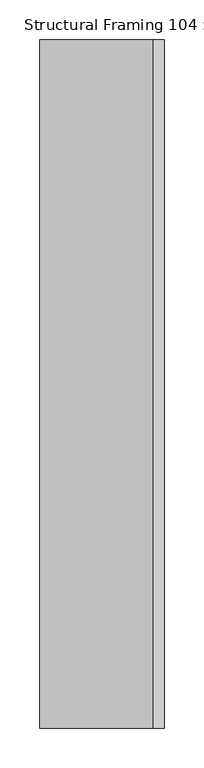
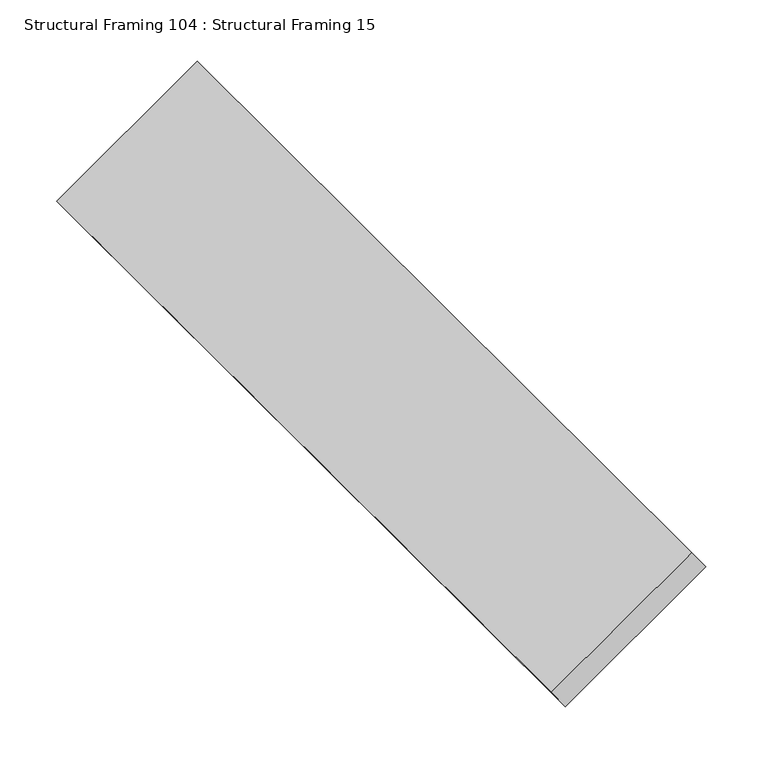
"""IFC4 building model written with IfcOpenShell, lengths in millimetres: beam geometry, Structural Framing 104 : Structural Framing 15."""

import ifcopenshell
import ifcopenshell.guid

model = None  # the IFC model being written
_history = None  # IfcOwnerHistory: only IFC2X3 demands one
_inside = {}  # id of a spatial element -> (the spatial element, [elements in it])
_under = {}  # id of a project, library or spatial element -> (it, [spatial elements below it])
_declared = {}  # id of a project -> (the project, [libraries it declares])
_typed = {}  # id of a type object -> (the type object, [elements of that type])
_made_of = {}  # id of a material, layer set ... -> (it, [elements and type objects made of it])


def new_model(schema):
    """Start an empty IFC model of exactly this schema.

    Asked for "IFC4X3", IfcOpenShell would pick the latest addendum, in which some entities
    have other attributes; the version numbers below select the first issue.
    IFC2X3 requires an IfcOwnerHistory on every rooted entity: one is made here for all.
    """
    global model, _history
    if schema == "IFC4X3":
        model = ifcopenshell.file(schema_version=(4, 3, 0, 0))
    else:
        model = ifcopenshell.file(schema=schema)
    _inside.clear()
    _under.clear()
    _declared.clear()
    _typed.clear()
    _made_of.clear()
    _history = None
    if model.schema == "IFC2X3":
        org = make("IfcOrganization", Name="unknown")
        user = make(
            "IfcPersonAndOrganization",
            ThePerson=make("IfcPerson", FamilyName="unknown"),
            TheOrganization=org,
        )
        app = make(
            "IfcApplication",
            ApplicationDeveloper=org,
            Version="unknown",
            ApplicationFullName="unknown",
            ApplicationIdentifier="unknown",
        )
        _history = make(
            "IfcOwnerHistory",
            OwningUser=user,
            OwningApplication=app,
            ChangeAction="ADDED",
            CreationDate=0,
        )
    return model


def make(cls, **values):
    """One entity of the class cls with the attributes given. An attribute that is None is left unset."""
    return model.create_entity(
        cls, **{name: value for name, value in values.items() if value is not None}
    )


def rooted(cls, **values):
    """An entity with a GlobalId (a new one), such as an element, a storey or a relation."""
    return make(cls, GlobalId=ifcopenshell.guid.new(), OwnerHistory=_history, **values)


def si_unit(unit_type, name, prefix=None):
    """IfcSIUnit, for example si_unit("LENGTHUNIT", "METRE", prefix="MILLI")."""
    return make("IfcSIUnit", UnitType=unit_type, Prefix=prefix, Name=name)


def assignment(units):
    """IfcUnitAssignment: the units of a project."""
    return None if units is None else make("IfcUnitAssignment", Units=units)


def point(xyz):
    """IfcCartesianPoint."""
    return None if xyz is None else make("IfcCartesianPoint", Coordinates=xyz)


def direction(xyz):
    """IfcDirection."""
    return None if xyz is None else make("IfcDirection", DirectionRatios=xyz)


def frame(location, z_axis=None, x_axis=None):
    """IfcAxis2Placement3D, a coordinate frame: its origin and axes. An axis left out is left unset."""
    return make(
        "IfcAxis2Placement3D",
        Location=point(location),
        Axis=direction(z_axis),
        RefDirection=direction(x_axis),
    )


def origin():
    """The frame at (0, 0, 0) with its axes left unset."""
    return frame((0.0, 0.0, 0.0))


def place(relative_to, where):
    """IfcLocalPlacement: puts the frame where relative to a parent placement (None: the world)."""
    return make(
        "IfcLocalPlacement", PlacementRelTo=relative_to, RelativePlacement=where
    )


def context(
    kind, dimensions, precision=None, world=None, true_north=None, identifier=None
):
    """IfcGeometricRepresentationContext, for example the 3D "Model" context."""
    return make(
        "IfcGeometricRepresentationContext",
        ContextIdentifier=identifier,
        ContextType=kind,
        CoordinateSpaceDimension=dimensions,
        Precision=precision,
        WorldCoordinateSystem=world,
        TrueNorth=true_north,
    )


def project(units=None, contexts=None):
    """IfcProject with its units and contexts."""
    return rooted(
        "IfcProject",
        Name="project",
        RepresentationContexts=contexts,
        UnitsInContext=assignment(units),
    )


def spatial(cls, under=None, at=None, **own):
    """A site, building, storey or space (cls), placed at a placement, below another one or the project."""
    s = rooted(cls, ObjectPlacement=at, **own)
    if under is not None:
        _under.setdefault(under.id(), (under, []))[1].append(s)
    return s


def polyline(points):
    """IfcPolyline through the points."""
    return make("IfcPolyline", Points=[point(p) for p in points])


def outline(outer, holes=None, kind="AREA"):
    """IfcArbitraryClosedProfileDef: a profile drawn as a closed curve; with holes, ...WithVoids."""
    if holes is None:
        return make("IfcArbitraryClosedProfileDef", ProfileType=kind, OuterCurve=outer)
    return make(
        "IfcArbitraryProfileDefWithVoids",
        ProfileType=kind,
        OuterCurve=outer,
        InnerCurves=holes,
    )


def extrude(swept, where, along, depth):
    """IfcExtrudedAreaSolid: the profile swept, set in the frame where, extruded along a direction by depth."""
    return make(
        "IfcExtrudedAreaSolid",
        SweptArea=swept,
        Position=where,
        ExtrudedDirection=direction(along),
        Depth=depth,
    )


def shape(context_of_items, identifier, shape_type, items):
    """IfcShapeRepresentation: the items that make up one representation, for example the "Body"."""
    return make(
        "IfcShapeRepresentation",
        ContextOfItems=context_of_items,
        RepresentationIdentifier=identifier,
        RepresentationType=shape_type,
        Items=items,
    )


def source(mapping_origin, context_of_items, identifier, shape_type, items):
    """IfcRepresentationMap: a shape defined once, which mapped items show again and again."""
    return make(
        "IfcRepresentationMap",
        MappingOrigin=mapping_origin,
        MappedRepresentation=shape(context_of_items, identifier, shape_type, items),
    )


def transform(
    local_origin,
    x_axis=None,
    y_axis=None,
    z_axis=None,
    scale=None,
    scale2=None,
    scale3=None,
    uniform=True,
):
    """IfcCartesianTransformationOperator3D, or its non-uniform kind. x_axis, y_axis, z_axis: its Axis1, 2, 3."""
    if uniform:
        return make(
            "IfcCartesianTransformationOperator3D",
            Axis1=direction(x_axis),
            Axis2=direction(y_axis),
            LocalOrigin=point(local_origin),
            Scale=scale,
            Axis3=direction(z_axis),
        )
    return make(
        "IfcCartesianTransformationOperator3DnonUniform",
        Axis1=direction(x_axis),
        Axis2=direction(y_axis),
        LocalOrigin=point(local_origin),
        Scale=scale,
        Axis3=direction(z_axis),
        Scale2=scale2,
        Scale3=scale3,
    )


def mapped(mapping_source, mapping_target):
    """IfcMappedItem: shows the shape of a source again, moved by a transform."""
    return make(
        "IfcMappedItem", MappingSource=mapping_source, MappingTarget=mapping_target
    )


def made_of(thing, what):
    """Note that an element or type object is made of a material, layer set ...; save() writes the relation."""
    if what is not None:
        _made_of.setdefault(what.id(), (what, []))[1].append(thing)
    return thing


def element(
    cls,
    number,
    at=None,
    inside=None,
    cuts=None,
    type_object=None,
    material=None,
    context=None,
    identifier="Body",
    shape_type=None,
    held_by="IfcProductDefinitionShape",
    body=None,
    shapes=None,
    **own,
):
    """One element of the class cls, such as IfcWall. Its Tag is "e" and its number.

    at: its placement. inside: the storey or other place that contains it. cuts: it is an
    opening in that element (IfcRelVoidsElement). A single representation is given by context,
    identifier, shape_type and body (its items); several are given by shapes. held_by: the class
    of the entity that holds the representations. save() writes the other relations.
    """
    e = rooted(cls, Tag="e%d" % number, ObjectPlacement=at, **own)
    if body is not None:
        shapes = [shape(context, identifier, shape_type, body)]
    if shapes is not None:
        e.Representation = make(held_by, Representations=shapes)
    if inside is not None:
        _inside.setdefault(inside.id(), (inside, []))[1].append(e)
    if cuts is not None:
        rooted(
            "IfcRelVoidsElement", RelatingBuildingElement=cuts, RelatedOpeningElement=e
        )
    if type_object is not None:
        _typed.setdefault(type_object.id(), (type_object, []))[1].append(e)
    return made_of(e, material)


def aggregate(whole, parts):
    """IfcRelAggregates: a whole, such as a stair, and the parts it consists of."""
    return rooted("IfcRelAggregates", RelatingObject=whole, RelatedObjects=parts)


def save(model, path):
    """Write the relations noted so far, then the file.

    IfcRelAggregates (storeys below a building ...), IfcRelContainedInSpatialStructure (elements
    in a storey), IfcRelDefinesByType, IfcRelAssociatesMaterial and IfcRelDeclares: one each for
    every whole, place, type object, material and project.
    """
    for whole, parts in _under.values():
        aggregate(whole, parts)
    for where, things in _inside.values():
        rooted(
            "IfcRelContainedInSpatialStructure",
            RelatedElements=things,
            RelatingStructure=where,
        )
    for kind, things in _typed.values():
        rooted("IfcRelDefinesByType", RelatedObjects=things, RelatingType=kind)
    for what, things in _made_of.values():
        rooted("IfcRelAssociatesMaterial", RelatedObjects=things, RelatingMaterial=what)
    for by, libraries in _declared.values():
        rooted("IfcRelDeclares", RelatingContext=by, RelatedDefinitions=libraries)
    model.write(path)


def structural_framing_104_structural_framing_15_200a1adf(model_context):
    return source(origin(), model_context, "Body", "SweptSolid", [
        extrude(outline(polyline([(0.0, -174.3446796), (0.0, 0.0), (870.0, 0.0), (870.0, -174.3446796), (0.0, -174.3446796)])), frame((1206.7789073, 3925.5508021, 2800.0), z_axis=(-0.5735764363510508, 0.0, 0.8191520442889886), x_axis=(0.0, -1.0, 0.0)), (0.0, 0.0, 1.0), 25.0),
    ])


if __name__ == "__main__":
    model = new_model("IFC4")
    model_context = context("Model", 3, world=origin())
    ifc_project = project(units=[si_unit("LENGTHUNIT", "METRE", prefix="MILLI")], contexts=[model_context])
    site = spatial("IfcSite", under=ifc_project)
    building = spatial("IfcBuilding", under=site)
    placement = place(None, origin())
    structural_framing_104_structural_framing_15_shape = structural_framing_104_structural_framing_15_200a1adf(model_context)
    element("IfcBeam", 1, ObjectType="Structural Framing 104 : Structural Framing 15", at=placement, inside=building, context=model_context, shape_type="MappedRepresentation", body=[
        mapped(structural_framing_104_structural_framing_15_shape, transform((0.0, 0.0, 0.0), x_axis=(1.0, 0.0, 0.0), y_axis=(0.0, 1.0, 0.0), z_axis=(0.0, 0.0, 1.0))),
    ])
    save(model, "model.ifc")
